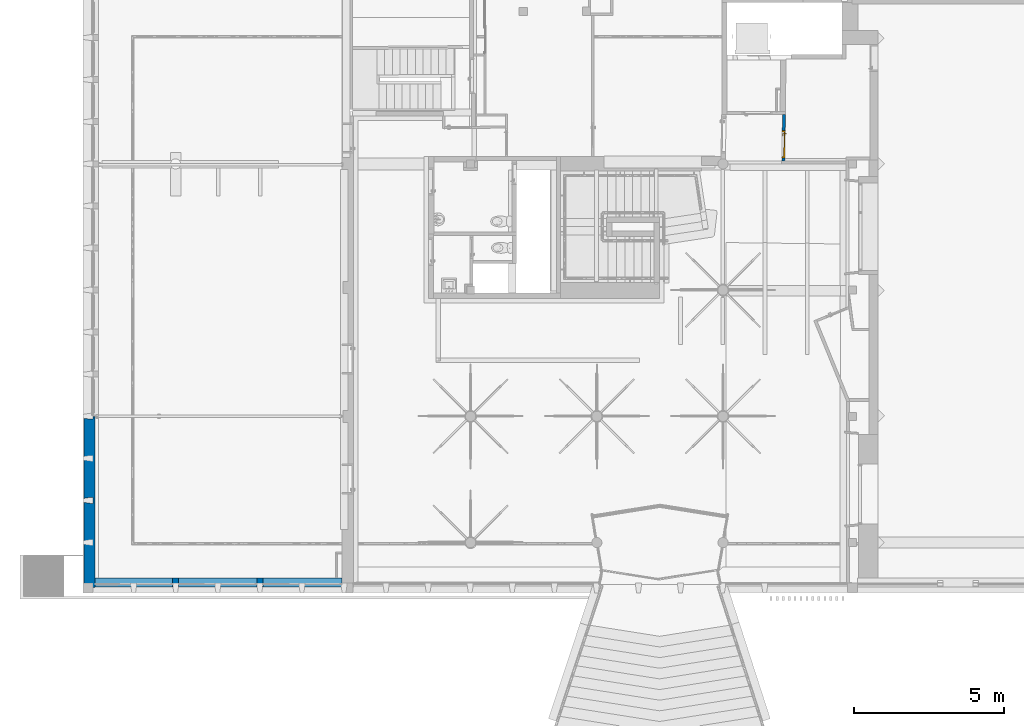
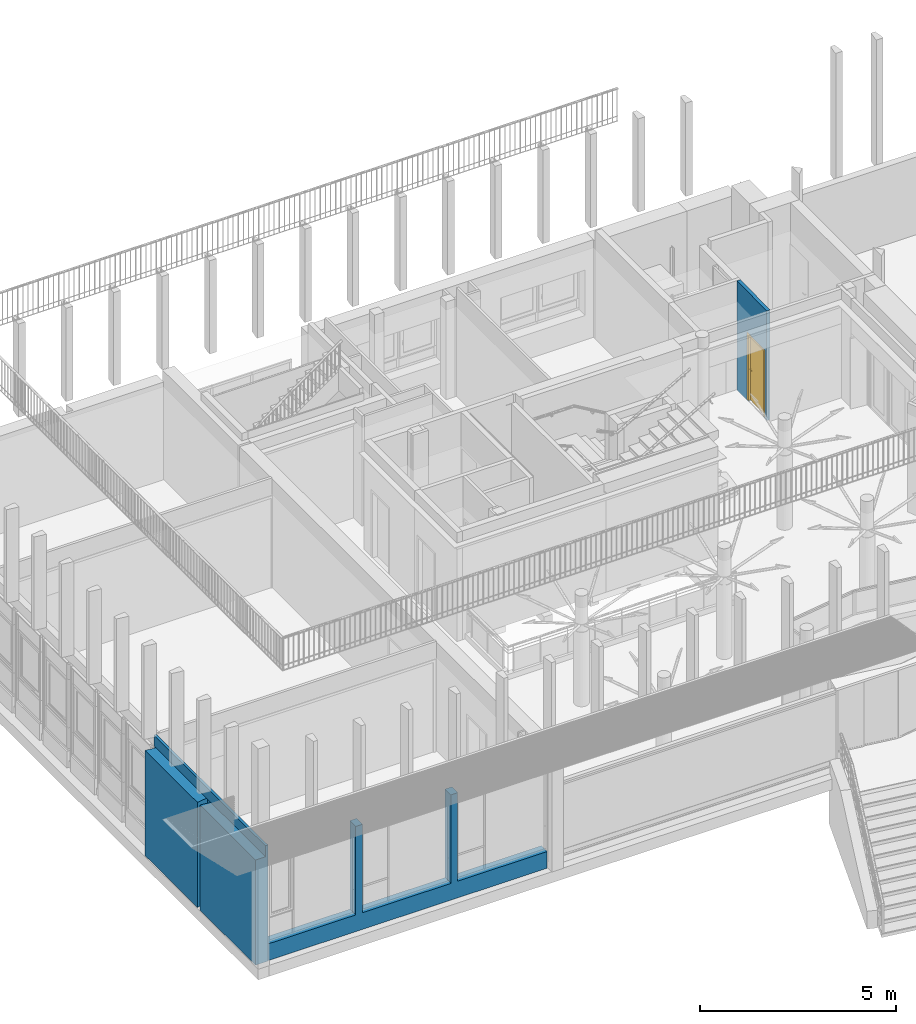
# One storey, part 33 of 65: 3 walls, 1 door, 2 openings.
"""IFC4 building model written with IfcOpenShell, lengths in metres."""

import ifcopenshell
import ifcopenshell.guid

model = None  # the IFC model being written
_history = None  # IfcOwnerHistory: only IFC2X3 demands one
_inside = {}  # id of a spatial element -> (the spatial element, [elements in it])
_under = {}  # id of a project, library or spatial element -> (it, [spatial elements below it])
_declared = {}  # id of a project -> (the project, [libraries it declares])
_typed = {}  # id of a type object -> (the type object, [elements of that type])
_made_of = {}  # id of a material, layer set ... -> (it, [elements and type objects made of it])


def new_model(schema):
    """Start an empty IFC model of exactly this schema.

    Asked for "IFC4X3", IfcOpenShell would pick the latest addendum, in which some entities
    have other attributes; the version numbers below select the first issue.
    IFC2X3 requires an IfcOwnerHistory on every rooted entity: one is made here for all.
    """
    global model, _history
    if schema == "IFC4X3":
        model = ifcopenshell.file(schema_version=(4, 3, 0, 0))
    else:
        model = ifcopenshell.file(schema=schema)
    _inside.clear()
    _under.clear()
    _declared.clear()
    _typed.clear()
    _made_of.clear()
    _history = None
    if model.schema == "IFC2X3":
        org = make("IfcOrganization", Name="unknown")
        user = make(
            "IfcPersonAndOrganization",
            ThePerson=make("IfcPerson", FamilyName="unknown"),
            TheOrganization=org,
        )
        app = make(
            "IfcApplication",
            ApplicationDeveloper=org,
            Version="unknown",
            ApplicationFullName="unknown",
            ApplicationIdentifier="unknown",
        )
        _history = make(
            "IfcOwnerHistory",
            OwningUser=user,
            OwningApplication=app,
            ChangeAction="ADDED",
            CreationDate=0,
        )
    return model


def make(cls, **values):
    """One entity of the class cls with the attributes given. An attribute that is None is left unset."""
    return model.create_entity(
        cls, **{name: value for name, value in values.items() if value is not None}
    )


def entity(cls, *values):
    """Any entity or typed value of the class cls, its attributes in the order of the schema. None: left unset."""
    e = model.create_entity(cls)
    for i, value in enumerate(values):
        if value is not None:
            e[i] = value
    return e


def rooted(cls, **values):
    """An entity with a GlobalId (a new one), such as an element, a storey or a relation."""
    return make(cls, GlobalId=ifcopenshell.guid.new(), OwnerHistory=_history, **values)


def si_unit(unit_type, name, prefix=None):
    """IfcSIUnit, for example si_unit("LENGTHUNIT", "METRE", prefix="MILLI")."""
    return make("IfcSIUnit", UnitType=unit_type, Prefix=prefix, Name=name)


def converted_unit(unit_type, name, factor, base, dimensions=None, offset=None):
    """IfcConversionBasedUnit, such as the inch: factor (a typed value) times the base unit."""
    return make(
        "IfcConversionBasedUnit"
        if offset is None
        else "IfcConversionBasedUnitWithOffset",
        ConversionOffset=offset,
        Dimensions=None
        if dimensions is None
        else entity("IfcDimensionalExponents", *dimensions),
        UnitType=unit_type,
        Name=name,
        ConversionFactor=make(
            "IfcMeasureWithUnit", ValueComponent=factor, UnitComponent=base
        ),
    )


def derived_unit(unit_type, elements):
    """IfcDerivedUnit: a product of units, each with its exponent."""
    return make(
        "IfcDerivedUnit",
        Elements=[
            make("IfcDerivedUnitElement", Unit=unit, Exponent=power)
            for unit, power in elements
        ],
        UnitType=unit_type,
    )


def assignment(units):
    """IfcUnitAssignment: the units of a project."""
    return None if units is None else make("IfcUnitAssignment", Units=units)


def point(xyz):
    """IfcCartesianPoint."""
    return None if xyz is None else make("IfcCartesianPoint", Coordinates=xyz)


def direction(xyz):
    """IfcDirection."""
    return None if xyz is None else make("IfcDirection", DirectionRatios=xyz)


def frame(location, z_axis=None, x_axis=None):
    """IfcAxis2Placement3D, a coordinate frame: its origin and axes. An axis left out is left unset."""
    return make(
        "IfcAxis2Placement3D",
        Location=point(location),
        Axis=direction(z_axis),
        RefDirection=direction(x_axis),
    )


def origin():
    """The frame at (0, 0, 0) with its axes left unset."""
    return frame((0.0, 0.0, 0.0))


def place(relative_to, where):
    """IfcLocalPlacement: puts the frame where relative to a parent placement (None: the world)."""
    return make(
        "IfcLocalPlacement", PlacementRelTo=relative_to, RelativePlacement=where
    )


def context(
    kind, dimensions, precision=None, world=None, true_north=None, identifier=None
):
    """IfcGeometricRepresentationContext, for example the 3D "Model" context."""
    return make(
        "IfcGeometricRepresentationContext",
        ContextIdentifier=identifier,
        ContextType=kind,
        CoordinateSpaceDimension=dimensions,
        Precision=precision,
        WorldCoordinateSystem=world,
        TrueNorth=true_north,
    )


def subcontext(parent, identifier, kind, view, scale=None):
    """IfcGeometricRepresentationSubContext, for example "Body" below "Model"."""
    return make(
        "IfcGeometricRepresentationSubContext",
        ContextIdentifier=identifier,
        ContextType=kind,
        ParentContext=parent,
        TargetScale=scale,
        TargetView=view,
    )


def project(units=None, contexts=None):
    """IfcProject with its units and contexts."""
    return rooted(
        "IfcProject",
        Name="project",
        RepresentationContexts=contexts,
        UnitsInContext=assignment(units),
    )


def spatial(cls, under=None, at=None, **own):
    """A site, building, storey or space (cls), placed at a placement, below another one or the project."""
    s = rooted(cls, ObjectPlacement=at, **own)
    if under is not None:
        _under.setdefault(under.id(), (under, []))[1].append(s)
    return s


def point_list(points):
    """IfcCartesianPointList2D or 3D."""
    cls = (
        "IfcCartesianPointList2D" if len(points[0]) == 2 else "IfcCartesianPointList3D"
    )
    return make(cls, CoordList=points)


def indexed_curve(points, segments=None, self_intersect=None):
    """IfcIndexedPolyCurve: lines and arcs through numbered points (the first is 1)."""
    return make(
        "IfcIndexedPolyCurve",
        Points=point_list(points),
        Segments=segments,
        SelfIntersect=self_intersect,
    )


def outline(outer, holes=None, kind="AREA"):
    """IfcArbitraryClosedProfileDef: a profile drawn as a closed curve; with holes, ...WithVoids."""
    if holes is None:
        return make("IfcArbitraryClosedProfileDef", ProfileType=kind, OuterCurve=outer)
    return make(
        "IfcArbitraryProfileDefWithVoids",
        ProfileType=kind,
        OuterCurve=outer,
        InnerCurves=holes,
    )


def extrude(swept, where, along, depth):
    """IfcExtrudedAreaSolid: the profile swept, set in the frame where, extruded along a direction by depth."""
    return make(
        "IfcExtrudedAreaSolid",
        SweptArea=swept,
        Position=where,
        ExtrudedDirection=direction(along),
        Depth=depth,
    )


def polygons(points, faces, closed=None, point_numbers=None):
    """IfcPolygonalFaceSet: a face is its outer loop, then its inner loops; points numbered from 1."""
    made = []
    for loops in faces:
        if len(loops) == 1:
            made.append(make("IfcIndexedPolygonalFace", CoordIndex=loops[0]))
        else:
            made.append(
                make(
                    "IfcIndexedPolygonalFaceWithVoids",
                    CoordIndex=loops[0],
                    InnerCoordIndices=loops[1:],
                )
            )
    return make(
        "IfcPolygonalFaceSet",
        Coordinates=point_list(points),
        Closed=closed,
        Faces=made,
        PnIndex=point_numbers,
    )


def shape(context_of_items, identifier, shape_type, items):
    """IfcShapeRepresentation: the items that make up one representation, for example the "Body"."""
    return make(
        "IfcShapeRepresentation",
        ContextOfItems=context_of_items,
        RepresentationIdentifier=identifier,
        RepresentationType=shape_type,
        Items=items,
    )


def source(mapping_origin, context_of_items, identifier, shape_type, items):
    """IfcRepresentationMap: a shape defined once, which mapped items show again and again."""
    return make(
        "IfcRepresentationMap",
        MappingOrigin=mapping_origin,
        MappedRepresentation=shape(context_of_items, identifier, shape_type, items),
    )


def transform(
    local_origin,
    x_axis=None,
    y_axis=None,
    z_axis=None,
    scale=None,
    scale2=None,
    scale3=None,
    uniform=True,
):
    """IfcCartesianTransformationOperator3D, or its non-uniform kind. x_axis, y_axis, z_axis: its Axis1, 2, 3."""
    if uniform:
        return make(
            "IfcCartesianTransformationOperator3D",
            Axis1=direction(x_axis),
            Axis2=direction(y_axis),
            LocalOrigin=point(local_origin),
            Scale=scale,
            Axis3=direction(z_axis),
        )
    return make(
        "IfcCartesianTransformationOperator3DnonUniform",
        Axis1=direction(x_axis),
        Axis2=direction(y_axis),
        LocalOrigin=point(local_origin),
        Scale=scale,
        Axis3=direction(z_axis),
        Scale2=scale2,
        Scale3=scale3,
    )


def mapped(mapping_source, mapping_target):
    """IfcMappedItem: shows the shape of a source again, moved by a transform."""
    return make(
        "IfcMappedItem", MappingSource=mapping_source, MappingTarget=mapping_target
    )


def material(Name=None, Category=None):
    """IfcMaterial."""
    return make("IfcMaterial", Name=Name, Category=Category)


def material_list(materials):
    """IfcMaterialList."""
    return make("IfcMaterialList", Materials=materials)


def layer(
    of_material, thickness, ventilated=None, Name=None, Category=None, Priority=None
):
    """IfcMaterialLayer: one layer of a wall or slab, of a material (None: an air gap)."""
    return make(
        "IfcMaterialLayer",
        Material=of_material,
        LayerThickness=thickness,
        IsVentilated=ventilated,
        Name=Name,
        Category=Category,
        Priority=Priority,
    )


def layer_set(layers, Name=None):
    """IfcMaterialLayerSet."""
    return make("IfcMaterialLayerSet", MaterialLayers=layers, LayerSetName=Name)


def constituent(of_material, Name=None, Category=None, fraction=None):
    """IfcMaterialConstituent: one of the materials an element consists of."""
    return make(
        "IfcMaterialConstituent",
        Name=Name,
        Material=of_material,
        Fraction=fraction,
        Category=Category,
    )


def constituent_set(constituents=None, Name=None):
    """IfcMaterialConstituentSet."""
    return make(
        "IfcMaterialConstituentSet", Name=Name, MaterialConstituents=constituents
    )


def made_of(thing, what):
    """Note that an element or type object is made of a material, layer set ...; save() writes the relation."""
    if what is not None:
        _made_of.setdefault(what.id(), (what, []))[1].append(thing)
    return thing


def type_object(cls, material=None, **own):
    """A type object (cls), such as IfcWallType, which elements share."""
    return made_of(rooted(cls, **own), material)


def type_shapes(of_type, sources):
    """Give a type object the sources (RepresentationMaps) that its elements show as mapped items."""
    of_type.RepresentationMaps = sources


def element(
    cls,
    number,
    at=None,
    inside=None,
    cuts=None,
    type_object=None,
    material=None,
    context=None,
    identifier="Body",
    shape_type=None,
    held_by="IfcProductDefinitionShape",
    body=None,
    shapes=None,
    **own,
):
    """One element of the class cls, such as IfcWall. Its Tag is "e" and its number.

    at: its placement. inside: the storey or other place that contains it. cuts: it is an
    opening in that element (IfcRelVoidsElement). A single representation is given by context,
    identifier, shape_type and body (its items); several are given by shapes. held_by: the class
    of the entity that holds the representations. save() writes the other relations.
    """
    e = rooted(cls, Tag="e%d" % number, ObjectPlacement=at, **own)
    if body is not None:
        shapes = [shape(context, identifier, shape_type, body)]
    if shapes is not None:
        e.Representation = make(held_by, Representations=shapes)
    if inside is not None:
        _inside.setdefault(inside.id(), (inside, []))[1].append(e)
    if cuts is not None:
        rooted(
            "IfcRelVoidsElement", RelatingBuildingElement=cuts, RelatedOpeningElement=e
        )
    if type_object is not None:
        _typed.setdefault(type_object.id(), (type_object, []))[1].append(e)
    return made_of(e, material)


def fill(opening, filler):
    """IfcRelFillsElement: the door or window that sits in an opening."""
    return rooted(
        "IfcRelFillsElement",
        RelatingOpeningElement=opening,
        RelatedBuildingElement=filler,
    )


def aggregate(whole, parts):
    """IfcRelAggregates: a whole, such as a stair, and the parts it consists of."""
    return rooted("IfcRelAggregates", RelatingObject=whole, RelatedObjects=parts)


def save(model, path):
    """Write the relations noted so far, then the file.

    IfcRelAggregates (storeys below a building ...), IfcRelContainedInSpatialStructure (elements
    in a storey), IfcRelDefinesByType, IfcRelAssociatesMaterial and IfcRelDeclares: one each for
    every whole, place, type object, material and project.
    """
    for whole, parts in _under.values():
        aggregate(whole, parts)
    for where, things in _inside.values():
        rooted(
            "IfcRelContainedInSpatialStructure",
            RelatedElements=things,
            RelatingStructure=where,
        )
    for kind, things in _typed.values():
        rooted("IfcRelDefinesByType", RelatedObjects=things, RelatingType=kind)
    for what, things in _made_of.values():
        rooted("IfcRelAssociatesMaterial", RelatedObjects=things, RelatingMaterial=what)
    for by, libraries in _declared.values():
        rooted("IfcRelDeclares", RelatingContext=by, RelatedDefinitions=libraries)
    model.write(path)


model = new_model("IFC4")

# Units and contexts
model_context = context("Model", 3, precision=1e-05, world=origin(), true_north=direction((6.12303176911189e-17, 1.0)))
body_context = subcontext(model_context, "Body", "Model", "MODEL_VIEW")
ifc_project = project(units=[si_unit("LENGTHUNIT", "METRE"), si_unit("AREAUNIT", "SQUARE_METRE"), si_unit("VOLUMEUNIT", "CUBIC_METRE"), converted_unit("PLANEANGLEUNIT", "DEGREE", entity("IfcRatioMeasure", 0.0174532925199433), si_unit("PLANEANGLEUNIT", "RADIAN"), dimensions=[0, 0, 0, 0, 0, 0, 0]), si_unit("MASSUNIT", "GRAM", prefix="KILO"), derived_unit("MASSDENSITYUNIT", [(si_unit("MASSUNIT", "GRAM", prefix="KILO"), 1), (si_unit("LENGTHUNIT", "METRE"), -3)]), derived_unit("MOMENTOFINERTIAUNIT", [(si_unit("LENGTHUNIT", "METRE"), 4)]), si_unit("TIMEUNIT", "SECOND"), si_unit("FREQUENCYUNIT", "HERTZ"), si_unit("THERMODYNAMICTEMPERATUREUNIT", "DEGREE_CELSIUS"), derived_unit("THERMALTRANSMITTANCEUNIT", [(si_unit("MASSUNIT", "GRAM", prefix="KILO"), 1), (si_unit("THERMODYNAMICTEMPERATUREUNIT", "KELVIN"), -1), (si_unit("TIMEUNIT", "SECOND"), -3)]), derived_unit("VOLUMETRICFLOWRATEUNIT", [(si_unit("LENGTHUNIT", "METRE"), 3), (si_unit("TIMEUNIT", "SECOND"), -1)]), si_unit("ELECTRICCURRENTUNIT", "AMPERE"), si_unit("ELECTRICVOLTAGEUNIT", "VOLT"), si_unit("POWERUNIT", "WATT"), si_unit("FORCEUNIT", "NEWTON", prefix="KILO"), si_unit("ILLUMINANCEUNIT", "LUX"), si_unit("LUMINOUSFLUXUNIT", "LUMEN"), si_unit("LUMINOUSINTENSITYUNIT", "CANDELA"), derived_unit("USERDEFINED", [(si_unit("MASSUNIT", "GRAM", prefix="KILO"), -1), (si_unit("LENGTHUNIT", "METRE"), -2), (si_unit("TIMEUNIT", "SECOND"), 3), (si_unit("LUMINOUSFLUXUNIT", "LUMEN"), 1)]), derived_unit("LINEARVELOCITYUNIT", [(si_unit("LENGTHUNIT", "METRE"), 1), (si_unit("TIMEUNIT", "SECOND"), -1)]), si_unit("PRESSUREUNIT", "PASCAL"), derived_unit("USERDEFINED", [(si_unit("LENGTHUNIT", "METRE"), -2), (si_unit("MASSUNIT", "GRAM", prefix="KILO"), 1), (si_unit("TIMEUNIT", "SECOND"), -2)]), derived_unit("LINEARFORCEUNIT", [(si_unit("MASSUNIT", "GRAM", prefix="KILO"), 1), (si_unit("LENGTHUNIT", "METRE"), 1), (si_unit("TIMEUNIT", "SECOND"), -2), (si_unit("LENGTHUNIT", "METRE"), -1)]), derived_unit("PLANARFORCEUNIT", [(si_unit("MASSUNIT", "GRAM", prefix="KILO"), 1), (si_unit("LENGTHUNIT", "METRE"), 1), (si_unit("TIMEUNIT", "SECOND"), -2), (si_unit("LENGTHUNIT", "METRE"), -2)])], contexts=[model_context])

# Site, building, storey
site_placement = place(None, origin())
site = spatial("IfcSite", under=ifc_project, at=site_placement, Name="Default", CompositionType="ELEMENT")
building_placement = place(site_placement, origin())
building = spatial("IfcBuilding", under=site, at=building_placement, Name="HOTEL CONSULAIRE BOULOGNE SUR MER", CompositionType="ELEMENT")
storey_placement = place(building_placement, origin())
storey = spatial("IfcBuildingStorey", under=building, at=storey_placement, Name="Niveau 0", CompositionType="ELEMENT", Elevation=1.31981936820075e-13)

# Wall, openings, door
ifc_material_1 = material(Name="Mur par défaut", Category="Divers")
ifc_layer_1 = layer(ifc_material_1, 0.1, Name="Mur par défaut", Category="Divers")
ifc_layer_set_1 = layer_set([ifc_layer_1], Name="Mur de base:Générique - Int. 100 mm")
wall_type_1 = type_object("IfcWallType", Name="Mur de base:Générique - Int. 100 mm", PredefinedType="NOTDEFINED", material=ifc_layer_set_1)
wall_1_placement = place(storey_placement, frame((9.17525829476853, -15.5166680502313, -0.0200000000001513), z_axis=(0.0, 0.0, 1.0), x_axis=(0.0151648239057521, 0.99988500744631, 0.0)))
wall_1 = element("IfcWall", 1, at=wall_1_placement, inside=storey, type_object=wall_type_1, material=ifc_layer_set_1, Name="Mur de base:Générique - Int. 100 mm", ObjectType="Mur de base:Générique - Int. 100 mm", PredefinedType="NOTDEFINED", context=body_context, shape_type="Tessellation", body=[
    polygons([(1.54373205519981, 0.0499999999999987, -2.15727435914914e-16), (1.54524871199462, -0.0500000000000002, -2.15727435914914e-16), (0.955688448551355, -0.0500000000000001, -2.15727435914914e-16), (0.955688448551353, 0.0499999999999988, -2.15727435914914e-16), (0.105688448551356, 0.0499999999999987, 0.0400000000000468), (0.105688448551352, -0.0500000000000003, 0.0400000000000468), (0.155688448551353, -0.050000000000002, 0.0400000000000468), (0.155688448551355, 0.0499999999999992, 0.0400000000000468), (0.105688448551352, -0.0500000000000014, 2.11500000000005), (1.00568844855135, -0.0500000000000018, 2.11500000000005), (1.00568844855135, -0.0500000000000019, 0.0400000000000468), (0.955688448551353, -0.0500000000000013, 0.0400000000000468), (1.54524871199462, -0.0500000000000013, 0.0400000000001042), (1.54524871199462, -0.0500000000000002, 3.40652697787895), (0.00151665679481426, -0.0500000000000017, 3.40652697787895), (0.00151665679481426, -0.0500000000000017, 0.0400000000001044), (0.00151665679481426, -0.0500000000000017, -2.15727435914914e-16), (0.155688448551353, -0.050000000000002, -2.15727435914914e-16), (0.105688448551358, 0.0499999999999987, 2.11500000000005), (0.155688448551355, 0.0499999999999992, -2.15727435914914e-16), (2.16573425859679e-15, 0.0499999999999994, -2.15727435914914e-16), (2.16573425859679e-15, 0.0499999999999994, 2.32615028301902), (2.16573425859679e-15, 0.0499999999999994, 3.40652697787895), (1.54373205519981, 0.0499999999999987, 3.40652697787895), (0.955688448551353, 0.0499999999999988, 0.0400000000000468), (1.00568844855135, 0.0499999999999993, 0.0400000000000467), (1.00568844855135, 0.0499999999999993, 2.11500000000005)], [[[2, 3, 4, 1]], [[18, 17, 21, 20]], [[10, 9, 19, 27]], [[7, 8, 5, 6]], [[11, 26, 25, 12]], [[15, 14, 24, 23]], [[16, 17, 18, 7, 6, 9, 10, 11, 12, 3, 2, 13, 14, 15]], [[1, 4, 25, 26, 27, 19, 5, 8, 20, 21, 22, 23, 24]], [[21, 17, 16, 15, 23, 22]], [[13, 2, 1, 24, 14]], [[6, 5, 19, 9]], [[7, 18, 20, 8]], [[10, 27, 26, 11]], [[12, 25, 4, 3]]], closed=True),
])
opening_1_placement = place(storey_placement, frame((9.17525829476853, -15.5166680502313, -0.0200000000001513), z_axis=(0.0, 0.0, 1.0), x_axis=(0.0151648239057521, 0.99988500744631, 0.0)))
element("IfcOpeningElement", 2, at=opening_1_placement, cuts=wall_1, Name="Mur de base:Générique - Int. 100 mm:1", ObjectType="Opening", PredefinedType="OPENING", context=body_context, shape_type="SweptSolid", body=[
    extrude(outline(indexed_curve([(-0.0200000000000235, -0.0499999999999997), (0.0200000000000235, -0.0499999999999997), (0.0200000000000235, 0.0500000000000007), (-0.0200000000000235, 0.0500000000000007), (-0.0200000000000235, -0.0499999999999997)], self_intersect=False)), frame((0.155688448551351, 0.0, 0.0200000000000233), z_axis=(1.0, 0.0, 0.0), x_axis=(0.0, 0.0, -1.0)), (0.0, 0.0, 1.0), 0.799999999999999),
])
opening_2_placement = place(wall_1_placement, frame((1.00568844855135, 0.0500000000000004, 0.0400000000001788)))
opening_2 = element("IfcOpeningElement", 3, at=opening_2_placement, cuts=wall_1, Name="Int. Simple:PP (0.83m x 2.04m):1", ObjectType="Opening", PredefinedType="OPENING", context=body_context, shape_type="SweptSolid", body=[
    extrude(outline(indexed_curve([(0.0, 0.9), (0.0, 0.0), (2.075, 0.0), (2.075, 0.9), (0.0, 0.9)], self_intersect=False)), frame((0.0, 0.0, 0.0), z_axis=(0.0, -1.0, 0.0), x_axis=(0.0, 0.0, 1.0)), (0.0, 0.0, 1.0), 0.1),
])
ifc_material_2 = material(Name="Finition Peinture - Blanc satiné", Category="Peinture")
ifc_constituent_1 = constituent(ifc_material_2, Name="Finition Peinture - Blanc satiné", Category="Matériaux")
ifc_material_3 = material(Name="Bois - Panneau de porte", Category="Bois")
ifc_constituent_2 = constituent(ifc_material_3, Name="Bois - Panneau de porte", Category="Matériaux")
ifc_material_4 = material(Name="Bois - Cadre de porte", Category="Bois")
ifc_constituent_3 = constituent(ifc_material_4, Name="Bois - Cadre de porte", Category="Matériaux")
ifc_constituent_set = constituent_set(constituents=[ifc_constituent_1, ifc_constituent_2, ifc_constituent_3], Name="MaterialConstituentSet")
ifc_material_list = material_list([ifc_material_4, ifc_material_3, ifc_material_4, ifc_material_2])
door_type = type_object("IfcDoorType", Name="Int. Simple:PP (0.83m x 2.04m)", OperationType="NOTDEFINED", PredefinedType="DOOR", material=ifc_material_list)
shared_shape = source(origin(), body_context, "Body", "Tessellation", [
    polygons([(0.895000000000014, -0.00500000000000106, 0.870000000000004), (0.895000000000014, -0.00500000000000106, 1.08), (0.885352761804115, -0.00500000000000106, 1.08399601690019), (0.875000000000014, -0.00500000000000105, 1.08535898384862), (0.864647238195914, -0.00500000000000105, 1.08399601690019), (0.855000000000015, -0.00500000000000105, 1.08), (0.855000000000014, -0.00500000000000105, 0.870000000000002), (0.864647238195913, -0.00500000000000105, 0.866003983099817), (0.875000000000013, -0.00500000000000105, 0.86464101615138), (0.885352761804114, -0.00500000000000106, 0.866003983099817), (0.895000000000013, -1.06594733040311e-15, 0.870000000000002), (0.885352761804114, -1.06594733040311e-15, 0.866003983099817), (0.875000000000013, -1.05748743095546e-15, 0.86464101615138), (0.864647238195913, -1.05748743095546e-15, 0.866003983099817), (0.855000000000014, -1.04902753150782e-15, 0.870000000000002), (0.855000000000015, -1.04902753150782e-15, 1.08), (0.864647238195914, -1.05748743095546e-15, 1.08399601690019), (0.875000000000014, -1.05748743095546e-15, 1.08535898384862), (0.885352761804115, -1.06594733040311e-15, 1.08399601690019), (0.895000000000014, -1.06594733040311e-15, 1.08)], [[[1, 2, 3, 4, 5, 6, 7, 8, 9, 10]], [[20, 11, 12, 13, 14, 15, 16, 17, 18, 19]], [[10, 12, 11, 1]], [[9, 13, 12, 10]], [[8, 14, 13, 9]], [[8, 7, 15, 14]], [[15, 7, 6, 16]], [[5, 17, 16, 6]], [[4, 18, 17, 5]], [[3, 19, 18, 4]], [[3, 2, 20, 19]], [[11, 20, 2, 1]]], closed=True),
    polygons([(0.855000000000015, 0.0399999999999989, 1.08), (0.855000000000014, 0.0399999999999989, 0.870000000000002), (0.864647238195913, 0.0399999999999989, 0.866003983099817), (0.875000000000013, 0.0399999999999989, 0.86464101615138), (0.885352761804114, 0.0399999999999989, 0.866003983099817), (0.895000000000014, 0.0399999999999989, 0.870000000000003), (0.895000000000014, 0.0399999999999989, 1.08), (0.885352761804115, 0.0399999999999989, 1.08399601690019), (0.875000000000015, 0.0399999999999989, 1.08535898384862), (0.864647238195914, 0.0399999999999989, 1.08399601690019), (0.855000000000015, 0.0449999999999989, 1.08), (0.864647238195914, 0.0449999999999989, 1.08399601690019), (0.875000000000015, 0.0449999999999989, 1.08535898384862), (0.885352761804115, 0.0449999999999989, 1.08399601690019), (0.895000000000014, 0.0449999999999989, 1.08), (0.895000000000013, 0.0449999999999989, 0.870000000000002), (0.885352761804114, 0.0449999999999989, 0.866003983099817), (0.875000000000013, 0.0449999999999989, 0.86464101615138), (0.864647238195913, 0.0449999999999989, 0.866003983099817), (0.855000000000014, 0.0449999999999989, 0.870000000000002)], [[[6, 7, 8, 9, 10, 1, 2, 3, 4, 5]], [[13, 14, 15, 16, 17, 18, 19, 20, 11, 12]], [[10, 12, 11, 1]], [[9, 13, 12, 10]], [[8, 14, 13, 9]], [[8, 7, 15, 14]], [[16, 15, 7, 6]], [[5, 17, 16, 6]], [[4, 18, 17, 5]], [[3, 19, 18, 4]], [[3, 2, 20, 19]], [[20, 2, 1, 11]]], closed=True),
    polygons([(0.881000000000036, -0.00500000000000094, 1.00699999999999), (0.881000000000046, -0.00500000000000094, 0.992999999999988), (0.877025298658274, -0.00500000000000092, 0.99221955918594), (0.872974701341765, -0.0050000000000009, 0.992219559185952), (0.868999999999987, -0.00500000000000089, 0.993000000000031), (0.868999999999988, -0.00500000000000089, 1.007), (0.872974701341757, -0.0050000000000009, 1.00778044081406), (0.877025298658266, -0.00500000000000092, 1.00778044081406), (0.868999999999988, -0.0276803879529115, 1.007), (0.872974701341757, -0.0293267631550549, 1.00778044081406), (0.877025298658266, -0.0310045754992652, 1.00778044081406), (0.881000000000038, -0.0326509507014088, 1.007), (0.868999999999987, -0.0276803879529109, 0.993000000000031), (0.881000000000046, -0.0326509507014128, 0.992999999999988), (0.877025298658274, -0.0310045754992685, 0.99221955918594), (0.872974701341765, -0.0293267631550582, 0.992219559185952), (0.85765222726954, -0.0390281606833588, 1.007), (0.859298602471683, -0.0430028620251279, 1.00778044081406), (0.860976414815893, -0.0470534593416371, 1.00778044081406), (0.862622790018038, -0.051028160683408, 1.007), (0.857652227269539, -0.0390281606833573, 0.993000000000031), (0.862622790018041, -0.0510281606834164, 0.992999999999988), (0.860976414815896, -0.0470534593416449, 0.99221955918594), (0.859298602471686, -0.0430028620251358, 0.992219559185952), (0.774981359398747, -0.0510281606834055, 1.007), (0.774981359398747, -0.0470534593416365, 1.00778044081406), (0.774981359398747, -0.0430028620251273, 1.00778044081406), (0.774981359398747, -0.0390281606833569, 1.00699999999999), (0.774981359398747, -0.0390281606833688, 0.993000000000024), (0.774981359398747, -0.0430028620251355, 0.992219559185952), (0.774981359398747, -0.0470534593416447, 0.99221955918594), (0.774981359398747, -0.0510281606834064, 0.992999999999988), (0.822692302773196, -0.051028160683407, 1.007), (0.81713998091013, -0.045028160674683, 1.0078786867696), (0.816316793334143, -0.039028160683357, 1.007), (0.822692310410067, -0.0510281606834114, 0.992999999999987), (0.817139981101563, -0.0450281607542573, 0.992121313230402), (0.816316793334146, -0.0390281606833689, 0.993000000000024)], [[[7, 8, 1, 2, 3, 4, 5, 6]], [[17, 21, 38, 29, 28, 35]], [[1, 8, 11, 12]], [[8, 7, 10, 18, 19, 11]], [[7, 6, 9, 10]], [[13, 9, 6, 5]], [[25, 26, 27, 28, 29, 30, 31, 32]], [[4, 16, 13, 5]], [[4, 3, 15, 23, 24, 16]], [[2, 14, 15, 3]], [[12, 14, 2, 1]], [[12, 11, 19, 20]], [[10, 9, 17, 18]], [[21, 17, 9, 13]], [[13, 16, 24, 21]], [[15, 14, 22, 23]], [[20, 22, 14, 12]], [[34, 26, 33]], [[33, 26, 25]], [[33, 20, 19]], [[18, 35, 34]], [[35, 18, 17]], [[28, 27, 35]], [[34, 27, 26]], [[34, 35, 27]], [[34, 33, 19]], [[18, 34, 19]], [[37, 30, 38]], [[31, 37, 36]], [[24, 38, 21]], [[30, 29, 38]], [[31, 36, 32]], [[36, 23, 22]], [[37, 23, 36]], [[37, 24, 23]], [[37, 38, 24]], [[30, 37, 31]], [[22, 20, 33, 25, 32, 36]]], closed=True),
    polygons([(0.868999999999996, 0.0449999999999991, 0.993000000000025), (0.872974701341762, 0.0449999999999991, 0.992219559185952), (0.877025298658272, 0.0449999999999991, 0.99221955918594), (0.881000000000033, 0.044999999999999, 0.992999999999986), (0.881000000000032, 0.044999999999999, 1.007), (0.877025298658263, 0.0449999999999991, 1.00778044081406), (0.872974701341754, 0.0449999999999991, 1.00778044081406), (0.868999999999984, 0.0449999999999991, 1.007), (0.868999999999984, 0.067485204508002, 1.007), (0.868999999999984, 0.0674852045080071, 0.993000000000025), (0.881000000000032, 0.0724557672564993, 1.007), (0.877025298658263, 0.070809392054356, 1.00778044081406), (0.872974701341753, 0.0691315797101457, 1.00778044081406), (0.881000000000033, 0.0724557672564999, 0.992999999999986), (0.872974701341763, 0.0691315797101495, 0.992219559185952), (0.877025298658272, 0.0708093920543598, 0.99221955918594), (0.857514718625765, 0.0789704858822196, 1.007), (0.857514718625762, 0.0789704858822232, 0.993000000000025), (0.862485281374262, 0.0909704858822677, 1.007), (0.860838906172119, 0.0869957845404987, 1.00778044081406), (0.859161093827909, 0.0829451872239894, 1.00778044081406), (0.862485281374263, 0.0909704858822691, 0.992999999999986), (0.859161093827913, 0.0829451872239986, 0.992219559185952), (0.860838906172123, 0.0869957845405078, 0.99221955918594), (0.77495421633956, 0.0789704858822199, 0.993000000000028), (0.77495421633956, 0.0789704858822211, 1.007), (0.77495421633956, 0.0829451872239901, 1.00778044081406), (0.77495421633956, 0.0869957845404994, 1.00778044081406), (0.77495421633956, 0.0909704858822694, 1.007), (0.77495421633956, 0.0909704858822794, 0.992999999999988), (0.77495421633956, 0.086995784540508, 0.99221955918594), (0.77495421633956, 0.0829451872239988, 0.992219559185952), (0.822554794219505, 0.0909704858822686, 1.007), (0.817057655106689, 0.0849704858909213, 1.0078786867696), (0.816234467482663, 0.0789704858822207, 1.007), (0.822554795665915, 0.0909704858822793, 0.992999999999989), (0.817057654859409, 0.0849704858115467, 0.992121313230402), (0.816234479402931, 0.0789704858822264, 0.993000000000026)], [[[2, 3, 4, 5, 6, 7, 8, 1]], [[18, 17, 35, 26, 25, 38]], [[9, 10, 1, 8]], [[27, 28, 29, 30, 31, 32, 25, 26]], [[7, 13, 9, 8]], [[7, 6, 12, 20, 21, 13]], [[5, 11, 12, 6]], [[11, 5, 4, 14]], [[4, 3, 16, 14]], [[3, 2, 15, 23, 24, 16]], [[2, 1, 10, 15]], [[17, 18, 10, 9]], [[9, 13, 21, 17]], [[11, 19, 20, 12]], [[22, 19, 11, 14]], [[14, 16, 24, 22]], [[15, 10, 18, 23]], [[34, 27, 35]], [[28, 34, 33]], [[21, 35, 17]], [[27, 26, 35]], [[28, 33, 29]], [[33, 20, 19]], [[34, 20, 33]], [[34, 21, 20]], [[34, 35, 21]], [[27, 34, 28]], [[19, 22, 36, 30, 29, 33]], [[37, 31, 36]], [[36, 31, 30]], [[36, 22, 24]], [[23, 38, 37]], [[38, 23, 18]], [[25, 32, 38]], [[37, 32, 31]], [[37, 38, 32]], [[37, 36, 24]], [[23, 37, 24]]], closed=True),
    polygons([(0.935000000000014, 0.04, 2.04), (0.935000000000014, 0.04, 0.0), (0.105000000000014, 0.04, 0.0), (0.105000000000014, 0.04, 2.04), (0.935000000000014, 3.38395977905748e-17, 2.04), (0.105000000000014, 3.38395977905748e-17, 2.04), (0.105000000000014, 3.38395977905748e-17, 0.0), (0.935000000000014, 3.38395977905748e-17, 0.0)], [[[3, 4, 1, 2]], [[5, 6, 7, 8]], [[5, 1, 4, 6]], [[6, 4, 3, 7]], [[8, 7, 3, 2]], [[8, 2, 1, 5]]], closed=True),
    polygons([(0.970000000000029, 0.0, 0.0), (0.935000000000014, 0.0, 0.0), (0.935000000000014, 0.040000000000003, 0.0), (0.920000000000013, 0.040000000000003, 0.0), (0.920000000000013, 0.100000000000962, 0.0), (0.970000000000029, 0.100000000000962, 0.0), (0.970000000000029, 0.100000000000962, 2.07500000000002), (0.970000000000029, 0.0, 2.07500000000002), (0.920000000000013, 0.100000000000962, 2.025), (0.120000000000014, 0.100000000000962, 2.025), (0.120000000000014, 0.100000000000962, 6.02669015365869e-24), (0.0699999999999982, 0.100000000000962, 9.23443718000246e-25), (0.0699999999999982, 0.100000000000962, 2.07500000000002), (0.920000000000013, 0.040000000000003, 2.025), (0.935000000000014, 0.040000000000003, 2.04), (0.105000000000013, 0.040000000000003, 2.04), (0.105000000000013, 0.040000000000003, 1.51399294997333e-24), (0.120000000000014, 0.040000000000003, 1.99209609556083e-25), (0.120000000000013, 0.040000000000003, 2.025), (0.935000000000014, 0.0, 2.04), (0.0699999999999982, 0.0, 2.07500000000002), (0.0699999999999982, 0.0, 1.81925185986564e-24), (0.105000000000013, 0.0, 3.40121094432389e-24), (0.105000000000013, 0.0, 2.04)], [[[5, 6, 1, 2, 3, 4]], [[17, 23, 22, 12, 11, 18]], [[19, 10, 9, 14]], [[24, 16, 15, 20]], [[7, 8, 1, 6]], [[18, 11, 10, 19]], [[17, 16, 24, 23]], [[9, 10, 11, 12, 13, 7, 6, 5]], [[14, 9, 5, 4]], [[15, 3, 2, 20]], [[12, 22, 21, 13]], [[19, 14, 4, 3, 15, 16, 17, 18]], [[24, 20, 2, 1, 8, 21, 22, 23]], [[13, 21, 8, 7]]], closed=True),
    polygons([(0.955000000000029, 0.100000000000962, 1.35358391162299e-16), (0.955000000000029, 0.105000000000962, 1.35358391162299e-16), (0.985000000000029, 0.105000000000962, 1.35358391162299e-16), (0.985000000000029, 0.100000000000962, 1.35358391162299e-16), (0.985000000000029, 0.100000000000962, 2.09000000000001), (0.0550000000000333, 0.100000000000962, 2.09000000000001), (0.0550000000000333, 0.100000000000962, -5.44393448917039e-24), (0.0850000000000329, 0.100000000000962, 5.09144898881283e-24), (0.0850000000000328, 0.100000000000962, 2.06000000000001), (0.955000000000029, 0.100000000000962, 2.06000000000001), (0.985000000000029, 0.105000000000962, 2.09000000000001), (0.955000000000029, 0.105000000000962, 2.06000000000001), (0.0850000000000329, 0.105000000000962, 2.06000000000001), (0.0850000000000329, 0.105000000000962, -1.89153776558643e-24), (0.055000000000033, 0.105000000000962, 5.03766794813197e-24), (0.0550000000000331, 0.105000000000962, 2.09000000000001)], [[[2, 3, 4, 1]], [[7, 15, 14, 8]], [[13, 12, 10, 9]], [[9, 10, 1, 4, 5, 6, 7, 8]], [[11, 5, 4, 3]], [[8, 14, 13, 9]], [[12, 13, 14, 15, 16, 11, 3, 2]], [[10, 12, 2, 1]], [[15, 7, 6, 16]], [[16, 6, 5, 11]]], closed=True),
    polygons([(0.955000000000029, -0.005, 1.35358391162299e-16), (0.955000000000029, 0.0, 1.35358391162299e-16), (0.985000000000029, 0.0, 1.35358391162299e-16), (0.985000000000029, -0.005, 1.35358391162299e-16), (0.0850000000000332, -0.005, -1.35358391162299e-16), (0.0550000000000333, -0.005, -1.35358391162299e-16), (0.055000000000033, 0.0, -1.35358391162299e-16), (0.0850000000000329, 0.0, -1.35358391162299e-16), (0.985000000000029, -0.005, 2.09000000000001), (0.0550000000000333, -0.005, 2.09000000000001), (0.0850000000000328, -0.005, 2.06000000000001), (0.955000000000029, -0.005, 2.06000000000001), (0.985000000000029, 0.0, 2.09000000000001), (0.955000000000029, 0.0, 2.06000000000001), (0.0850000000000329, 0.0, 2.06000000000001), (0.0550000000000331, 0.0, 2.09000000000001)], [[[2, 3, 4, 1]], [[6, 7, 8, 5]], [[11, 15, 14, 12]], [[11, 12, 1, 4, 9, 10, 6, 5]], [[13, 9, 4, 3]], [[5, 8, 15, 11]], [[14, 15, 8, 7, 16, 13, 3, 2]], [[12, 14, 2, 1]], [[7, 6, 10, 16]], [[16, 10, 9, 13]]], closed=True),
])
type_shapes(door_type, [shared_shape])
door_placement = place(opening_2_placement, frame((-0.970000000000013, -0.1, 0.0)))
door = element("IfcDoor", 4, at=door_placement, inside=storey, type_object=door_type, material=ifc_constituent_set, Name="Int. Simple:PP (0.83m x 2.04m)", ObjectType="Int. Simple:PP (0.83m x 2.04m)", OperationType="NOTDEFINED", OverallHeight=2.075, OverallWidth=0.9, PredefinedType="DOOR", context=body_context, shape_type="MappedRepresentation", body=[
    mapped(shared_shape, transform((0.0, 0.0, 0.0), scale=1.0)),
])
fill(opening_2, door)

# Walls
ifc_layer_2 = layer(ifc_material_1, 0.37, Name="Mur par défaut", Category="Divers")
ifc_layer_set_2 = layer_set([ifc_layer_2], Name="Mur de base:Générique - Ext.370")
wall_type_2 = type_object("IfcWallType", Name="Mur de base:Générique - Ext.370", PredefinedType="NOTDEFINED", material=ifc_layer_set_2)
wall_2_placement = place(storey_placement, frame((-13.9143496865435, -29.7040671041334, -0.220000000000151), z_axis=(0.0, 0.0, 1.0), x_axis=(0.0, 1.0, 0.0)))
element("IfcWall", 5, at=wall_2_placement, inside=storey, type_object=wall_type_2, material=ifc_layer_set_2, Name="Mur de base:Générique - Ext.370", ObjectType="Mur de base:Générique - Ext.370", PredefinedType="NOTDEFINED", context=body_context, shape_type="Tessellation", body=[
    polygons([(5.59261719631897, -0.099249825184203, 0.200000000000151), (2.99261719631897, -0.0992498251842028, 0.200000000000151), (2.99261719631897, -0.0992498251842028, -2.03037586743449e-16), (5.59261719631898, -0.099249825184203, 0.0), (2.82715426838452, 0.185, 3.27110477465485), (2.82715426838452, 0.185, -2.03037586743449e-16), (0.0, 0.185, 0.0), (0.0, 0.185, 3.27110477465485), (5.62715426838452, 0.185000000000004, -2.03037586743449e-16), (5.59261719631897, -0.0452471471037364, -2.03037586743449e-16), (2.99261719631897, -0.0452471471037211, -2.03037586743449e-16), (2.9580801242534, 0.185, -2.03037586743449e-16), (0.0, -0.110369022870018, 3.27110477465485), (0.150000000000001, -0.110369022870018, 3.27110477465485), (2.79261719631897, -0.110369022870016, 3.27110477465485), (2.79261719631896, -0.0452471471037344, 3.27110477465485), (0.0, -0.185000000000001, 3.6111047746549), (0.0, -0.185000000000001, -2.03037586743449e-16), (0.016000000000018, -0.185000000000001, -2.03037586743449e-16), (0.0459999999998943, -0.185000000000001, -2.03037586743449e-16), (0.0459999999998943, -0.185000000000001, 0.200000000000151), (0.150000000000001, -0.185, 0.200000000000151), (5.64901627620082, -0.185, 0.200000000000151), (5.68901627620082, -0.185, 0.200000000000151), (5.68901627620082, -0.185, 0.235000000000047), (5.68901627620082, -0.185, 3.60652697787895), (0.0689623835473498, -0.185000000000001, 3.60652697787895), (0.0689623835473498, -0.185000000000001, 3.6111047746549), (2.9580801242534, 0.185, 3.27110477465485), (5.62715426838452, 0.185, 3.27110477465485), (2.79261719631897, -0.0452471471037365, -2.03037586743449e-16), (2.79261719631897, -0.0992498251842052, -2.03037586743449e-16), (0.0459999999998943, -0.0992498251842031, -2.03037586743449e-16), (0.0, -0.110369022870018, 3.6111047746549), (0.0689623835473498, -0.11036902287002, 3.6111047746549), (2.99261719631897, -0.126247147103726, 3.27110477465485), (2.79261719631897, -0.126247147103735, 3.27110477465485), (2.99261719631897, -0.11036902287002, 3.27110477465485), (2.79261719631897, -0.126247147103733, 0.200000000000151), (2.79261719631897, -0.0992498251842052, 0.200000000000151), (2.99261719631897, -0.126247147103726, 0.200000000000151), (2.99261719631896, -0.0452471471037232, 3.27110477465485), (5.68901627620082, -0.126247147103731, 3.27110477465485), (5.59261719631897, -0.126247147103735, 3.27110477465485), (5.59261719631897, -0.11036902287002, 3.27110477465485), (5.68901627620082, -0.110369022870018, 3.27110477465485), (5.59261719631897, -0.0452471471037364, 3.27110477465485), (5.59261719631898, -0.126247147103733, 0.200000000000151), (5.68901627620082, -0.126247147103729, 0.200000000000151), (5.68901627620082, -0.11036902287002, 3.60652697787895), (0.0459999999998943, -0.0992498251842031, 0.200000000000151), (0.0689623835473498, -0.110369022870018, 3.60652697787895), (0.150000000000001, -0.110369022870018, 3.60652697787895)], [[[1, 2, 3, 4]], [[21, 22, 23, 24, 25, 26, 27, 28, 17, 18, 19, 20]], [[40, 51, 33, 32]], [[5, 6, 7, 8]], [[30, 9, 12, 29]], [[39, 37, 36, 41]], [[49, 48, 44, 43]], [[15, 14, 13, 34, 35, 52, 53, 50, 46, 45, 38]], [[10, 4, 3, 11, 12, 9]], [[33, 20, 19, 18, 7, 6, 31, 32]], [[15, 38, 36, 37]], [[45, 46, 43, 44]], [[41, 2, 1, 48, 49, 24, 23, 22, 21, 51, 40, 39]], [[14, 15, 16, 5, 8, 13]], [[17, 28, 35, 34]], [[38, 45, 47, 30, 29, 42]], [[53, 52, 27, 26, 50]], [[13, 8, 7, 18, 17, 34]], [[41, 36, 38, 42, 11, 3, 2]], [[6, 5, 16, 31]], [[9, 30, 47, 10]], [[40, 32, 31, 16, 15, 37, 39]], [[1, 4, 10, 47, 45, 44, 48]], [[25, 24, 49, 43, 46, 50, 26]], [[28, 27, 52, 35]], [[51, 21, 20, 33]], [[11, 42, 29, 12]]], closed=True),
])
ifc_layer_3 = layer(ifc_material_1, 0.3, Name="Mur par défaut", Category="Divers")
ifc_layer_set_3 = layer_set([ifc_layer_3], Name="Mur de base:Générique - Ext. 300 mm")
wall_type_3 = type_object("IfcWallType", Name="Mur de base:Générique - Ext. 300 mm", PredefinedType="NOTDEFINED", material=ifc_layer_set_3)
wall_3_placement = place(storey_placement, frame((-5.50977317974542, -29.5380671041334, -0.220000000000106), z_axis=(0.0, 0.0, 1.0), x_axis=(-1.0, 0.0, 0.0)))
element("IfcWall", 6, at=wall_3_placement, inside=storey, type_object=wall_type_3, material=ifc_layer_set_3, Name="Mur de base:Générique - Ext. 300 mm", ObjectType="Mur de base:Générique - Ext. 300 mm", PredefinedType="NOTDEFINED", context=body_context, shape_type="Tessellation", body=[
    polygons([(2.63164679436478, 0.150000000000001, 3.27), (2.63164679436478, -0.150000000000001, 3.27), (2.83164679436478, -0.150000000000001, 3.27), (2.83164679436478, 0.150000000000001, 3.27), (0.203734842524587, -0.150000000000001, 0.200000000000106), (0.153734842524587, -0.150000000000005, 0.200000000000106), (1.10566175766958e-15, -0.150000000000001, 0.200000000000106), (9.45036182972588e-16, -0.101008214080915, 0.200000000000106), (0.203734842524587, -0.101008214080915, 0.200000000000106), (5.63164679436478, -0.150000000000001, 0.520000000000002), (5.63164679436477, -0.150000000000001, 3.27), (5.43164679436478, -0.150000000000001, 3.27), (5.43164679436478, -0.150000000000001, 0.520000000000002), (2.83164679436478, -0.150000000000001, 0.520000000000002), (2.63164679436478, -0.150000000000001, 0.520000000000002), (2.27946283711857e-17, -0.150000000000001, 0.520000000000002), (0.203734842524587, -0.150000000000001, 0.235000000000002), (8.21957650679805, -0.150000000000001, 0.235000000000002), (8.21957650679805, -0.150000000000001, 0.520000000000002), (8.21957650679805, 0.150000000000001, 1.01518793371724e-16), (1.22074988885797e-16, 0.150000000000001, 1.01518793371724e-16), (1.22074988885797e-16, 0.150000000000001, 0.520000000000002), (2.63164679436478, 0.150000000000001, 0.520000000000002), (2.83164679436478, 0.150000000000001, 0.520000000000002), (5.43164679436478, 0.150000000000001, 0.520000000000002), (5.43164679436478, 0.150000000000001, 3.27), (5.63164679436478, 0.150000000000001, 3.27), (5.63164679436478, 0.150000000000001, 0.520000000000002), (8.21957650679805, 0.150000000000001, 0.520000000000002), (8.21957650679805, 0.120000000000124, 1.01518793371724e-16), (2.20433665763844e-16, 0.120000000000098, 1.01518793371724e-16), (2.20433665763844e-16, 0.120000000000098, 0.200000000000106), (5.61410412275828e-16, 0.016000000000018, 0.200000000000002), (5.61410412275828e-16, 0.016000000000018, 0.235000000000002), (-1.3783094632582e-16, -0.101008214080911, 0.235000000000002), (8.21957650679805, 0.016000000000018, 0.235000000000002), (8.21957650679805, 0.016000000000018, 0.200000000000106), (8.21957650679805, 0.120000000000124, 0.200000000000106), (0.203734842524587, -0.101008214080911, 0.235000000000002)], [[[2, 3, 4, 1]], [[12, 11, 27, 26]], [[28, 10, 19, 29]], [[22, 16, 15, 23]], [[24, 14, 13, 25]], [[6, 7, 8, 9, 5]], [[30, 31, 21, 20]], [[35, 34, 36, 18, 17, 39]], [[37, 33, 32, 38]], [[16, 7, 6, 5, 17, 18, 19, 10, 11, 12, 13, 14, 3, 2, 15]], [[34, 33, 37, 36]], [[32, 31, 30, 38]], [[20, 21, 22, 23, 1, 4, 24, 25, 26, 27, 28, 29]], [[35, 39, 9, 8]], [[27, 11, 10, 28]], [[38, 30, 20, 29, 19, 18, 36, 37]], [[4, 3, 14, 24]], [[39, 17, 5, 9]], [[23, 15, 2, 1]], [[35, 8, 7, 16, 22, 21, 31, 32, 33, 34]], [[25, 13, 12, 26]]], closed=True),
])

save(model, "model.ifc")
